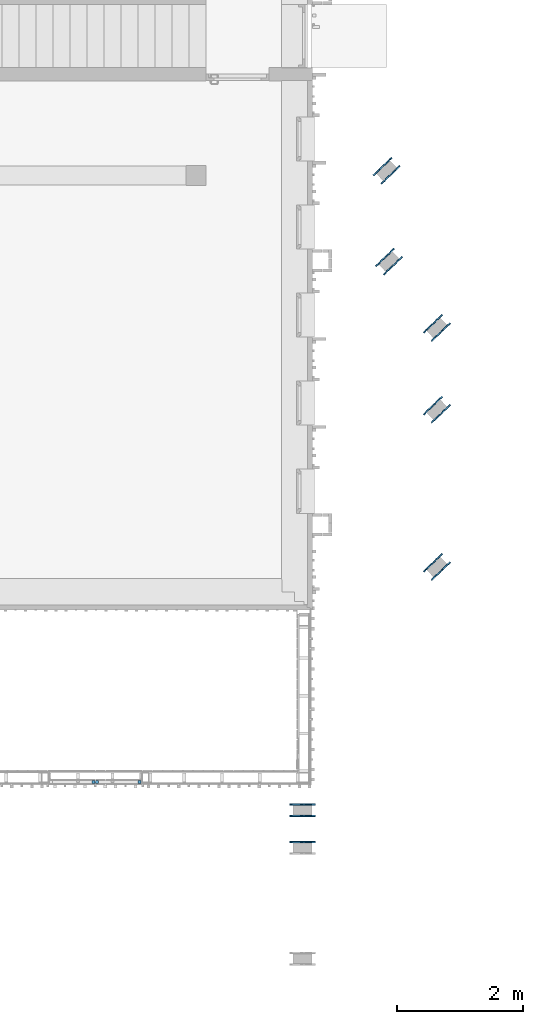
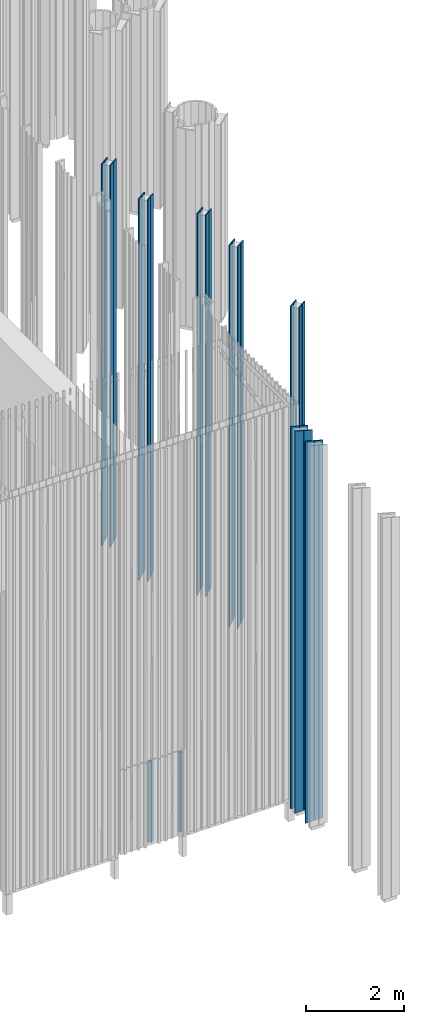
# One storey, part 38 of 390: 29 discrete accessories.
"""IFC2X3 building model written with IfcOpenShell, lengths in millimetres."""

from ifc_helpers import new_model, entity, si_unit, converted_unit, derived_unit, money_unit, direction, frame, origin_with_axes, origin_2d_with_axis, place, context, subcontext, project, spatial, rectangle, hollow_rectangle, composite_profile, extrude, faceted_brep, source, transform, mapped, material, material_list, type_object, element, save


model = new_model("IFC2X3")

# Units and contexts
model_context = context("Model", 3, precision=1e-05, world=origin_with_axes(), true_north=direction((0.0, 1.0)))
body_context = subcontext(model_context, "Body", "Model", "MODEL_VIEW")
ifc_project = project(units=[si_unit("LENGTHUNIT", "METRE", prefix="MILLI"), si_unit("AREAUNIT", "SQUARE_METRE"), si_unit("VOLUMEUNIT", "CUBIC_METRE"), converted_unit("PLANEANGLEUNIT", "DEGREE", entity("IfcPlaneAngleMeasure", 0.0174532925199), si_unit("PLANEANGLEUNIT", "RADIAN"), dimensions=[0, 0, 0, 0, 0, 0, 0]), si_unit("SOLIDANGLEUNIT", "STERADIAN"), money_unit("EUR"), converted_unit("TIMEUNIT", "Year", entity("IfcTimeMeasure", 31556926.0), si_unit("TIMEUNIT", "SECOND"), dimensions=[0, 0, 1, 0, 0, 0, 0]), si_unit("MASSUNIT", "GRAM", prefix="KILO"), si_unit("THERMODYNAMICTEMPERATUREUNIT", "DEGREE_CELSIUS"), si_unit("LUMINOUSINTENSITYUNIT", "LUMEN"), si_unit("ENERGYUNIT", "JOULE", prefix="MEGA"), derived_unit("THERMALCONDUCTANCEUNIT", [(si_unit("POWERUNIT", "WATT"), 1), (si_unit("LENGTHUNIT", "METRE"), -1), (si_unit("THERMODYNAMICTEMPERATUREUNIT", "KELVIN"), -1)]), derived_unit("SPECIFICHEATCAPACITYUNIT", [(si_unit("ENERGYUNIT", "JOULE"), 1), (si_unit("MASSUNIT", "GRAM", prefix="KILO"), -1), (si_unit("THERMODYNAMICTEMPERATUREUNIT", "KELVIN"), -1)]), derived_unit("MASSDENSITYUNIT", [(si_unit("MASSUNIT", "GRAM", prefix="KILO"), 1), (si_unit("VOLUMEUNIT", "CUBIC_METRE"), -1)])], contexts=[model_context])

# Site, building, storey
site_placement = place(None, origin_with_axes())
site = spatial("IfcSite", under=ifc_project, at=site_placement, Name="Site", CompositionType="ELEMENT")
building_placement = place(site_placement, origin_with_axes())
building = spatial("IfcBuilding", under=site, at=building_placement, Name="Building", CompositionType="ELEMENT")
storey_placement = place(building_placement, origin_with_axes())
storey = spatial("IfcBuildingStorey", under=building, at=storey_placement, Name="1 korrus", CompositionType="ELEMENT", Elevation=0.0)

# Discrete accessories
ifc_material_1 = material(Name="GENEERILINE - VÄLINE VOODER")
discrete_accessory_type_1 = type_object("IfcDiscreteAccessoryType", Name="GENEERILINE - VÄLINE VOODER")
shared_shape_1 = source(origin_with_axes(), body_context, "Body", "Brep", [
    faceted_brep([(162190.360855, 119453.798876, 100.0), (162190.360855, 119453.798876, 9600.0), (162168.524839, 119456.480002, 9600.0), (162168.524839, 119456.480002, 100.0), (162214.734723, 119652.308107, 100.0), (162214.734723, 119652.308107, 9546.41016151), (162192.898708, 119654.989232, 9546.41016151), (162192.898708, 119654.989232, 100.0)], [[[0, 1, 2, 3]], [[1, 0, 4, 5]], [[2, 1, 5, 6]], [[3, 2, 6, 7]], [[0, 3, 7, 4]], [[7, 6, 5, 4]]]),
])
for number, where, z_axis, x_axis in (
    (1, (1090.55889165, 188583.662485, 0.0), (0.0, 0.0, 1.0), (0.121869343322, -0.992546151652, 0.0)),
    (2, (1090.55889165, 187983.662485, 0.0), (0.0, 0.0, 1.0), (0.121869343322, -0.992546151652, 0.0)),
    (3, (-59628.8672127, 55800.8174511, 0.0), (0.0, 0.0, 1.0), (0.774944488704, -0.632029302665, 0.0)),
    (4, (-59628.8672127, 58300.8174511, 0.0), (0.0, 0.0, 1.0), (0.774944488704, -0.632029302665, 0.0)),
    (5, (-59628.8672127, 59600.8174511, 0.0), (0.0, 0.0, 1.0), (0.774944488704, -0.632029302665, 0.0)),
    (6, (-60390.1597736, 60656.289636, 0.0), (0.0, 0.0, 1.0), (0.774944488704, -0.632029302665, 0.0)),
    (7, (-60428.8672127, 62100.8174511, 0.0), (0.0, 0.0, 1.0), (0.774944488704, -0.632029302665, 0.0)),
):
    element("IfcDiscreteAccessory", number, at=place(storey_placement, frame(where, z_axis=z_axis, x_axis=x_axis)), inside=storey, type_object=discrete_accessory_type_1, material=ifc_material_1, Name="Päikesevarjestuspost", context=body_context, shape_type="MappedRepresentation", body=[
        mapped(shared_shape_1, transform((0.0, 0.0, 0.0))),
    ])
shared_shape_2 = source(origin_with_axes(), body_context, "Body", "Brep", [
    faceted_brep([(162194.117401, 119664.914694, 100.0), (162215.953417, 119662.233568, 100.0), (162215.953417, 119662.233568, 9543.73066959), (162194.117401, 119664.914694, 9543.73066959), (162218.49127, 119863.423924, 100.0), (162240.327285, 119860.742798, 100.0), (162240.327285, 119860.742798, 9490.1408311), (162218.49127, 119863.423924, 9490.1408311)], [[[0, 1, 2, 3]], [[1, 0, 4, 5]], [[2, 1, 5, 6]], [[3, 2, 6, 7]], [[0, 3, 7, 4]], [[4, 7, 6, 5]]]),
])
for number, where, z_axis, x_axis in (
    (8, (1090.55889165, 188583.662485, 0.0), (0.0, 0.0, 1.0), (0.121869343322, -0.992546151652, 0.0)),
    (9, (1090.55889165, 187983.662485, 0.0), (0.0, 0.0, 1.0), (0.121869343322, -0.992546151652, 0.0)),
    (10, (-59628.8672127, 55800.8174511, 0.0), (0.0, 0.0, 1.0), (0.774944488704, -0.632029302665, 0.0)),
    (11, (-59628.8672127, 58300.8174511, 0.0), (0.0, 0.0, 1.0), (0.774944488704, -0.632029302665, 0.0)),
    (12, (-59628.8672127, 59600.8174511, 0.0), (0.0, 0.0, 1.0), (0.774944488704, -0.632029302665, 0.0)),
    (13, (-60390.1597736, 60656.289636, 0.0), (0.0, 0.0, 1.0), (0.774944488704, -0.632029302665, 0.0)),
    (14, (-60428.8672127, 62100.8174511, 0.0), (0.0, 0.0, 1.0), (0.774944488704, -0.632029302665, 0.0)),
):
    element("IfcDiscreteAccessory", number, at=place(storey_placement, frame(where, z_axis=z_axis, x_axis=x_axis)), inside=storey, type_object=discrete_accessory_type_1, material=ifc_material_1, Name="Päikesevarjestuspost", context=body_context, shape_type="MappedRepresentation", body=[
        mapped(shared_shape_2, transform((0.0, 0.0, 0.0))),
    ])
shared_shape_3 = source(origin_with_axes(), body_context, "Body", "Brep", [
    faceted_brep([(-162194.117401, 119664.914694, 100.0), (-162194.117401, 119664.914694, 9543.73066959), (-162215.953417, 119662.233568, 9543.73066959), (-162215.953417, 119662.233568, 100.0), (-162218.49127, 119863.423924, 100.0), (-162218.49127, 119863.423924, 9490.1408311), (-162240.327285, 119860.742798, 9490.1408311), (-162240.327285, 119860.742798, 100.0)], [[[0, 1, 2, 3]], [[0, 4, 5, 1]], [[1, 5, 6, 2]], [[2, 6, 7, 3]], [[3, 7, 4, 0]], [[4, 7, 6, 5]]]),
])
for number, where, z_axis, x_axis in (
    (15, (1090.55889161, -104423.662465, 0.0), (0.0, 0.0, 1.0), (-0.121869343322, -0.992546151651, 0.0)),
    (16, (143174.152663, -155680.216222, 0.0), (0.0, 0.0, 1.0), (0.599023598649, -0.800731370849, 0.0)),
    (17, (143174.152663, -153180.216222, 0.0), (0.0, 0.0, 1.0), (0.599023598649, -0.800731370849, 0.0)),
    (18, (143174.152663, -151880.216222, 0.0), (0.0, 0.0, 1.0), (0.599023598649, -0.800731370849, 0.0)),
    (19, (142412.860102, -150824.744037, 0.0), (0.0, 0.0, 1.0), (0.599023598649, -0.800731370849, 0.0)),
    (20, (142374.152663, -149380.216222, 0.0), (0.0, 0.0, 1.0), (0.599023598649, -0.800731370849, 0.0)),
):
    element("IfcDiscreteAccessory", number, at=place(storey_placement, frame(where, z_axis=z_axis, x_axis=x_axis)), inside=storey, type_object=discrete_accessory_type_1, material=ifc_material_1, Name="Päikesevarjestuspost", context=body_context, shape_type="MappedRepresentation", body=[
        mapped(shared_shape_3, transform((0.0, 0.0, 0.0))),
    ])
shared_shape_4 = source(origin_with_axes(), body_context, "Body", "Brep", [
    faceted_brep([(-162190.360855, 119453.798876, 100.0), (-162168.524839, 119456.480002, 100.0), (-162168.524839, 119456.480002, 9600.0), (-162190.360855, 119453.798876, 9600.0), (-162214.734723, 119652.308107, 100.0), (-162192.898708, 119654.989232, 100.0), (-162192.898708, 119654.989232, 9546.41016151), (-162214.734723, 119652.308107, 9546.41016151)], [[[0, 1, 2, 3]], [[0, 4, 5, 1]], [[1, 5, 6, 2]], [[2, 6, 7, 3]], [[3, 7, 4, 0]], [[5, 4, 7, 6]]]),
])
for number, where, z_axis, x_axis in (
    (21, (1090.55889161, -104423.662465, 0.0), (0.0, 0.0, 1.0), (-0.121869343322, -0.992546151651, 0.0)),
    (22, (143174.152663, -155680.216222, 0.0), (0.0, 0.0, 1.0), (0.599023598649, -0.800731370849, 0.0)),
    (23, (143174.152663, -153180.216222, 0.0), (0.0, 0.0, 1.0), (0.599023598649, -0.800731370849, 0.0)),
    (24, (143174.152663, -151880.216222, 0.0), (0.0, 0.0, 1.0), (0.599023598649, -0.800731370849, 0.0)),
    (25, (142412.860102, -150824.744037, 0.0), (0.0, 0.0, 1.0), (0.599023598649, -0.800731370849, 0.0)),
    (26, (142374.152663, -149380.216222, 0.0), (0.0, 0.0, 1.0), (0.599023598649, -0.800731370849, 0.0)),
):
    element("IfcDiscreteAccessory", number, at=place(storey_placement, frame(where, z_axis=z_axis, x_axis=x_axis)), inside=storey, type_object=discrete_accessory_type_1, material=ifc_material_1, Name="Päikesevarjestuspost", context=body_context, shape_type="MappedRepresentation", body=[
        mapped(shared_shape_4, transform((0.0, 0.0, 0.0))),
    ])
ifc_material_2 = material(Name="Teras (musta värvi)")
ifc_material_list = material_list([ifc_material_2, ifc_material_2])
discrete_accessory_type_2 = type_object("IfcDiscreteAccessoryType", Name="Teras (musta värvi) 42 x 42")
discrete_accessory_placement = place(storey_placement, frame((136300.000037, 42526.9999199, 150.0), z_axis=(0.0, 0.0, 1.0), x_axis=(1.0, 0.0, 0.0)))
element("IfcDiscreteAccessory", 27, at=discrete_accessory_placement, inside=storey, type_object=discrete_accessory_type_2, material=ifc_material_list, Name="Metall-raam", context=body_context, shape_type="SweptSolid", body=[
    extrude(composite_profile([hollow_rectangle(XDim=50.0, YDim=50.0, WallThickness=4.0, at=origin_2d_with_axis()), rectangle(XDim=42.0, YDim=42.0, at=origin_2d_with_axis())]), origin_with_axes(), (0.0, 0.0, 1.0), 2000.0),
])
for number, where, z_axis, x_axis, name in (
    (28, (137035.000037, 42526.9999799, 150.0), (0.0, 0.0, 1.0), (1.0, 0.0, 0.0), "Metall-raam"),
    (29, (136360.000037, 42526.9999349, 150.0), (0.0, 0.0, 1.0), (1.0, 0.0, 0.0), "Metall-raam"),
):
    element("IfcDiscreteAccessory", number, at=place(storey_placement, frame(where, z_axis=z_axis, x_axis=x_axis)), inside=storey, type_object=discrete_accessory_type_2, material=ifc_material_list, Name=name, context=body_context, shape_type="SweptSolid", body=[
        extrude(composite_profile([hollow_rectangle(XDim=50.0, YDim=50.0, WallThickness=4.0, at=origin_2d_with_axis()), rectangle(XDim=42.0, YDim=42.0, at=origin_2d_with_axis())]), frame((0.0, 0.0, 0.0), z_axis=(0.0, 0.0, -1.0), x_axis=(-1.0, 0.0, 0.0)), (0.0, 0.0, -1.0), 2000.0),
    ])

save(model, "model.ifc")
